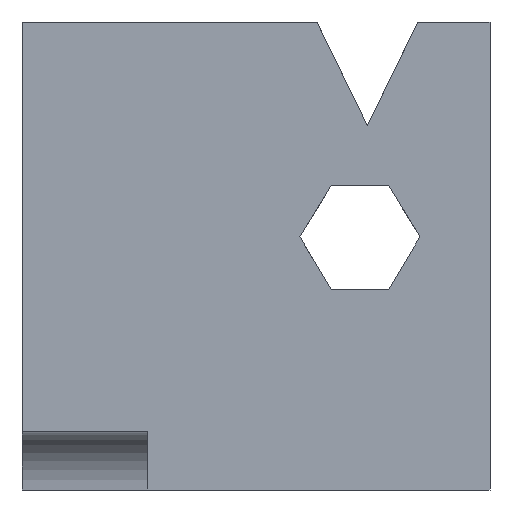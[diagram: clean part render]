
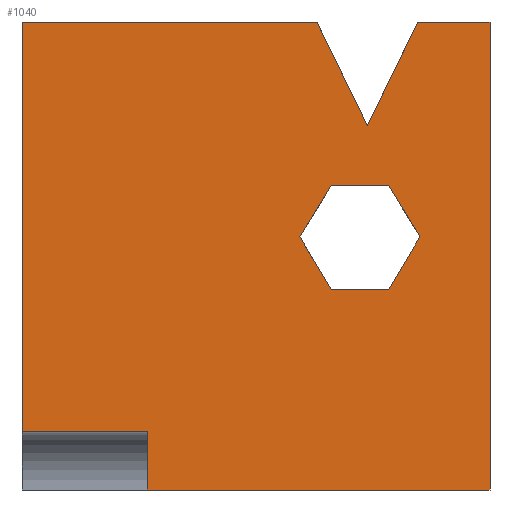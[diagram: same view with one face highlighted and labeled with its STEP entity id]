
A CAD part, left-side view. The second image highlights one B-rep face of the part: STEP entity #1040.
In plain terms, the highlighted planar face has unit normal (-1, 0, 0).
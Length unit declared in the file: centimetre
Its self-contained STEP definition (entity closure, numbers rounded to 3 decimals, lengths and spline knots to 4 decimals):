
#6 = CARTESIAN_POINT ( 'NONE',  ( 0., 339.308, 428.3133 ) ) ;
#10 = VECTOR ( 'NONE', #804, 100. ) ;
#30 = VECTOR ( 'NONE', #651, 100. ) ;
#45 = VERTEX_POINT ( 'NONE', #1018 ) ;
#59 = CARTESIAN_POINT ( 'NONE',  ( 0., 405.9901, 540.7852 ) ) ;
#69 = EDGE_CURVE ( 'NONE', #1200, #1271, #775, .T. ) ;
#72 = VECTOR ( 'NONE', #931, 100. ) ;
#80 = VERTEX_POINT ( 'NONE', #1205 ) ;
#82 = CARTESIAN_POINT ( 'NONE',  ( 0., 216.4224, 428.3133 ) ) ;
#98 = CARTESIAN_POINT ( 'NONE',  ( 0., 1000., 1000. ) ) ;
#102 = LINE ( 'NONE', #6, #10 ) ;
#118 = LINE ( 'NONE', #539, #378 ) ;
#122 = VECTOR ( 'NONE', #618, 100. ) ;
#123 = CARTESIAN_POINT ( 'NONE',  ( 0., 732.183, 124.4508 ) ) ;
#131 = EDGE_LOOP ( 'NONE', ( #864, #1275, #1101, #674, #1178, #283 ) ) ;
#134 = VECTOR ( 'NONE', #1257, 100. ) ;
#146 = LINE ( 'NONE', #1021, #122 ) ;
#149 = VERTEX_POINT ( 'NONE', #457 ) ;
#155 = CARTESIAN_POINT ( 'NONE',  ( 0., 149.7403, 540.7852 ) ) ;
#164 = ORIENTED_EDGE ( 'NONE', *, *, #69, .T. ) ;
#172 = CARTESIAN_POINT ( 'NONE',  ( 0., 339.308, 650.2322 ) ) ;
#177 = DIRECTION ( 'NONE',  ( 1., 0., 0. ) ) ;
#182 = CARTESIAN_POINT ( 'NONE',  ( 0., 1000., 1000. ) ) ;
#251 = EDGE_CURVE ( 'NONE', #386, #149, #1220, .T. ) ;
#273 = EDGE_LOOP ( 'NONE', ( #419, #164, #630, #1051, #820, #985, #916, #780, #688 ) ) ;
#274 = LINE ( 'NONE', #668, #826 ) ;
#280 = CARTESIAN_POINT ( 'NONE',  ( 0., 149.7403, 540.7852 ) ) ;
#283 = ORIENTED_EDGE ( 'NONE', *, *, #251, .F. ) ;
#288 = DIRECTION ( 'NONE',  ( 0., -1., 0. ) ) ;
#289 = VECTOR ( 'NONE', #1031, 100. ) ;
#294 = LINE ( 'NONE', #662, #1193 ) ;
#323 = LINE ( 'NONE', #896, #979 ) ;
#340 = EDGE_CURVE ( 'NONE', #519, #1271, #1188, .T. ) ;
#365 = VERTEX_POINT ( 'NONE', #680 ) ;
#378 = VECTOR ( 'NONE', #819, 100. ) ;
#384 = FACE_BOUND ( 'NONE', #131, .T. ) ;
#386 = VERTEX_POINT ( 'NONE', #484 ) ;
#401 = DIRECTION ( 'NONE',  ( 0., 1., 0. ) ) ;
#412 = EDGE_CURVE ( 'NONE', #45, #1150, #471, .T. ) ;
#419 = ORIENTED_EDGE ( 'NONE', *, *, #1099, .T. ) ;
#457 = CARTESIAN_POINT ( 'NONE',  ( 0., 339.308, 428.3133 ) ) ;
#471 = LINE ( 'NONE', #1065, #1177 ) ;
#484 = CARTESIAN_POINT ( 'NONE',  ( 0., 405.9901, 540.7852 ) ) ;
#486 = VERTEX_POINT ( 'NONE', #98 ) ;
#503 = EDGE_CURVE ( 'NONE', #1069, #875, #323, .T. ) ;
#519 = VERTEX_POINT ( 'NONE', #1086 ) ;
#525 = EDGE_CURVE ( 'NONE', #149, #1069, #102, .T. ) ;
#538 = DIRECTION ( 'NONE',  ( 0., -0.437, -0.9 ) ) ;
#539 = CARTESIAN_POINT ( 'NONE',  ( 0., 0., 1000. ) ) ;
#568 = CARTESIAN_POINT ( 'NONE',  ( 0., 732.183, 1000. ) ) ;
#576 = DIRECTION ( 'NONE',  ( 0., 0., -1. ) ) ;
#586 = PLANE ( 'NONE',  #732 ) ;
#594 = CARTESIAN_POINT ( 'NONE',  ( 0., 154.5306, 1000. ) ) ;
#597 = VERTEX_POINT ( 'NONE', #1207 ) ;
#618 = DIRECTION ( 'NONE',  ( 0., -1., 0. ) ) ;
#620 = EDGE_CURVE ( 'NONE', #365, #597, #118, .T. ) ;
#630 = ORIENTED_EDGE ( 'NONE', *, *, #340, .F. ) ;
#651 = DIRECTION ( 'NONE',  ( 0., 0.52, 0.854 ) ) ;
#662 = CARTESIAN_POINT ( 'NONE',  ( 0., 1000., 1000. ) ) ;
#667 = VERTEX_POINT ( 'NONE', #892 ) ;
#668 = CARTESIAN_POINT ( 'NONE',  ( 0., 262.0195, 778.5895 ) ) ;
#674 = ORIENTED_EDGE ( 'NONE', *, *, #503, .F. ) ;
#680 = CARTESIAN_POINT ( 'NONE',  ( 0., 0., 1000. ) ) ;
#688 = ORIENTED_EDGE ( 'NONE', *, *, #757, .F. ) ;
#711 = VECTOR ( 'NONE', #835, 100. ) ;
#731 = EDGE_CURVE ( 'NONE', #875, #45, #942, .T. ) ;
#732 = AXIS2_PLACEMENT_3D ( 'NONE', #182, #177, #576 ) ;
#735 = CARTESIAN_POINT ( 'NONE',  ( 0., 339.308, 650.2322 ) ) ;
#757 = EDGE_CURVE ( 'NONE', #486, #80, #1050, .T. ) ;
#773 = CARTESIAN_POINT ( 'NONE',  ( 0., 1000., 0. ) ) ;
#775 = LINE ( 'NONE', #123, #1148 ) ;
#780 = ORIENTED_EDGE ( 'NONE', *, *, #1273, .F. ) ;
#794 = DIRECTION ( 'NONE',  ( 0., -0.51, 0.86 ) ) ;
#804 = DIRECTION ( 'NONE',  ( 0., -1., 0. ) ) ;
#819 = DIRECTION ( 'NONE',  ( 0., 0., -1. ) ) ;
#820 = ORIENTED_EDGE ( 'NONE', *, *, #620, .F. ) ;
#826 = VECTOR ( 'NONE', #538, 100. ) ;
#835 = DIRECTION ( 'NONE',  ( 0., -1., 0. ) ) ;
#848 = EDGE_CURVE ( 'NONE', #519, #597, #958, .T. ) ;
#864 = ORIENTED_EDGE ( 'NONE', *, *, #993, .F. ) ;
#866 = DIRECTION ( 'NONE',  ( 0., 0., -1. ) ) ;
#875 = VERTEX_POINT ( 'NONE', #155 ) ;
#892 = CARTESIAN_POINT ( 'NONE',  ( 0., 262.0195, 778.5895 ) ) ;
#896 = CARTESIAN_POINT ( 'NONE',  ( 0., 216.4224, 428.3133 ) ) ;
#916 = ORIENTED_EDGE ( 'NONE', *, *, #1082, .F. ) ;
#931 = DIRECTION ( 'NONE',  ( 0., -0.51, -0.86 ) ) ;
#942 = LINE ( 'NONE', #280, #30 ) ;
#958 = LINE ( 'NONE', #773, #1113 ) ;
#979 = VECTOR ( 'NONE', #794, 100. ) ;
#985 = ORIENTED_EDGE ( 'NONE', *, *, #1196, .F. ) ;
#993 = EDGE_CURVE ( 'NONE', #1150, #386, #1227, .T. ) ;
#1003 = CARTESIAN_POINT ( 'NONE',  ( 0., 1000., 124.4508 ) ) ;
#1018 = CARTESIAN_POINT ( 'NONE',  ( 0., 216.4224, 650.2322 ) ) ;
#1021 = CARTESIAN_POINT ( 'NONE',  ( 0., 1000., 1000. ) ) ;
#1031 = DIRECTION ( 'NONE',  ( 0., 0.52, -0.854 ) ) ;
#1040 = ADVANCED_FACE ( 'NONE', ( #384, #1066 ), #586, .F. ) ;
#1050 = LINE ( 'NONE', #1159, #711 ) ;
#1051 = ORIENTED_EDGE ( 'NONE', *, *, #848, .T. ) ;
#1065 = CARTESIAN_POINT ( 'NONE',  ( 0., 216.4224, 650.2322 ) ) ;
#1066 = FACE_OUTER_BOUND ( 'NONE', #273, .T. ) ;
#1069 = VERTEX_POINT ( 'NONE', #82 ) ;
#1082 = EDGE_CURVE ( 'NONE', #667, #1267, #1264, .T. ) ;
#1086 = CARTESIAN_POINT ( 'NONE',  ( 0., 732.183, 0. ) ) ;
#1099 = EDGE_CURVE ( 'NONE', #486, #1200, #294, .T. ) ;
#1101 = ORIENTED_EDGE ( 'NONE', *, *, #731, .F. ) ;
#1103 = DIRECTION ( 'NONE',  ( 0., -1., 0. ) ) ;
#1113 = VECTOR ( 'NONE', #288, 100. ) ;
#1148 = VECTOR ( 'NONE', #1103, 100. ) ;
#1150 = VERTEX_POINT ( 'NONE', #172 ) ;
#1159 = CARTESIAN_POINT ( 'NONE',  ( 0., 1000., 1000. ) ) ;
#1161 = CARTESIAN_POINT ( 'NONE',  ( 0., 154.5306, 1000. ) ) ;
#1177 = VECTOR ( 'NONE', #401, 100. ) ;
#1178 = ORIENTED_EDGE ( 'NONE', *, *, #525, .F. ) ;
#1188 = LINE ( 'NONE', #568, #1256 ) ;
#1193 = VECTOR ( 'NONE', #866, 100. ) ;
#1196 = EDGE_CURVE ( 'NONE', #1267, #365, #146, .T. ) ;
#1200 = VERTEX_POINT ( 'NONE', #1003 ) ;
#1205 = CARTESIAN_POINT ( 'NONE',  ( 0., 369.5084, 1000. ) ) ;
#1207 = CARTESIAN_POINT ( 'NONE',  ( 0., 0., 0. ) ) ;
#1220 = LINE ( 'NONE', #59, #72 ) ;
#1227 = LINE ( 'NONE', #735, #289 ) ;
#1247 = CARTESIAN_POINT ( 'NONE',  ( 0., 732.183, 124.4508 ) ) ;
#1256 = VECTOR ( 'NONE', #1269, 100. ) ;
#1257 = DIRECTION ( 'NONE',  ( 0., -0.437, 0.9 ) ) ;
#1264 = LINE ( 'NONE', #594, #134 ) ;
#1267 = VERTEX_POINT ( 'NONE', #1161 ) ;
#1269 = DIRECTION ( 'NONE',  ( 0., 0., 1. ) ) ;
#1271 = VERTEX_POINT ( 'NONE', #1247 ) ;
#1273 = EDGE_CURVE ( 'NONE', #80, #667, #274, .T. ) ;
#1275 = ORIENTED_EDGE ( 'NONE', *, *, #412, .F. ) ;
